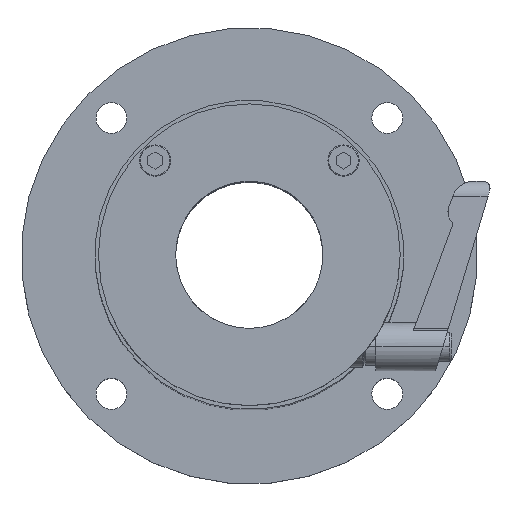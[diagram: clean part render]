
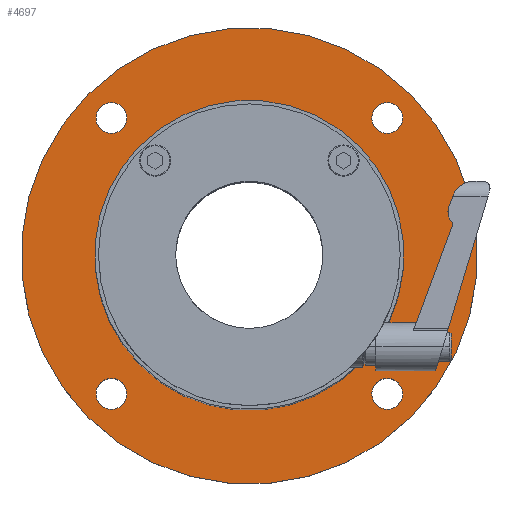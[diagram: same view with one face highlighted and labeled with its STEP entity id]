
A CAD part, top view. The second image highlights one B-rep face of the part: STEP entity #4697.
In plain terms, the highlighted planar face has unit normal (0, 0, 1).
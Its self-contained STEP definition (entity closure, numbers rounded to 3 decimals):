
#4 = FACE_BOUND ( 'NONE', #6618, .T. ) ;
#80 = CARTESIAN_POINT ( 'NONE',  ( -47.154, 38.314, 103. ) ) ;
#185 = VERTEX_POINT ( 'NONE', #6705 ) ;
#223 = EDGE_CURVE ( 'NONE', #3576, #6733, #2280, .T. ) ;
#248 = VERTEX_POINT ( 'NONE', #2738 ) ;
#309 = DIRECTION ( 'NONE',  ( 0.707, 0.707, 0. ) ) ;
#426 = DIRECTION ( 'NONE',  ( 0., 0., -1. ) ) ;
#652 = FACE_BOUND ( 'NONE', #5140, .T. ) ;
#655 = CIRCLE ( 'NONE', #5788, 4.188 ) ;
#744 = CIRCLE ( 'NONE', #1933, 4.188 ) ;
#773 = ORIENTED_EDGE ( 'NONE', *, *, #899, .F. ) ;
#899 = EDGE_CURVE ( 'NONE', #185, #248, #4942, .T. ) ;
#919 = CARTESIAN_POINT ( 'NONE',  ( -9.678, 0.837, 103. ) ) ;
#1060 = CARTESIAN_POINT ( 'NONE',  ( 30.761, -33.678, 103. ) ) ;
#1222 = CARTESIAN_POINT ( 'NONE',  ( 27.799, 38.314, 103. ) ) ;
#1230 = DIRECTION ( 'NONE',  ( 0., 0., -1. ) ) ;
#1266 = CIRCLE ( 'NONE', #1408, 4.188 ) ;
#1302 = VERTEX_POINT ( 'NONE', #6144 ) ;
#1314 = ORIENTED_EDGE ( 'NONE', *, *, #3986, .T. ) ;
#1316 = ORIENTED_EDGE ( 'NONE', *, *, #223, .T. ) ;
#1330 = ORIENTED_EDGE ( 'NONE', *, *, #2422, .T. ) ;
#1368 = CIRCLE ( 'NONE', #8786, 62. ) ;
#1408 = AXIS2_PLACEMENT_3D ( 'NONE', #3337, #1876, #7515 ) ;
#1416 = CIRCLE ( 'NONE', #2602, 4.188 ) ;
#1491 = DIRECTION ( 'NONE',  ( 0., 0., -1. ) ) ;
#1502 = CARTESIAN_POINT ( 'NONE',  ( 20.021, 30.536, 103. ) ) ;
#1821 = AXIS2_PLACEMENT_3D ( 'NONE', #2992, #7086, #2949 ) ;
#1876 = DIRECTION ( 'NONE',  ( 0., 0., -1. ) ) ;
#1933 = AXIS2_PLACEMENT_3D ( 'NONE', #7797, #5082, #8532 ) ;
#1985 = CIRCLE ( 'NONE', #3299, 4.188 ) ;
#2078 = FACE_BOUND ( 'NONE', #7046, .T. ) ;
#2088 = AXIS2_PLACEMENT_3D ( 'NONE', #7463, #1230, #8111 ) ;
#2129 = ORIENTED_EDGE ( 'NONE', *, *, #6040, .T. ) ;
#2280 = CIRCLE ( 'NONE', #5042, 4.188 ) ;
#2413 = EDGE_CURVE ( 'NONE', #2486, #5241, #4317, .T. ) ;
#2422 = EDGE_CURVE ( 'NONE', #2669, #6905, #1985, .T. ) ;
#2478 = AXIS2_PLACEMENT_3D ( 'NONE', #4399, #5862, #5820 ) ;
#2486 = VERTEX_POINT ( 'NONE', #6360 ) ;
#2602 = AXIS2_PLACEMENT_3D ( 'NONE', #7849, #426, #3039 ) ;
#2669 = VERTEX_POINT ( 'NONE', #8498 ) ;
#2693 = ORIENTED_EDGE ( 'NONE', *, *, #7193, .T. ) ;
#2738 = CARTESIAN_POINT ( 'NONE',  ( 34.163, 44.678, 103. ) ) ;
#2869 = AXIS2_PLACEMENT_3D ( 'NONE', #2976, #3750, #3065 ) ;
#2949 = DIRECTION ( 'NONE',  ( -0.707, 0.707, 0. ) ) ;
#2965 = EDGE_CURVE ( 'NONE', #248, #185, #1368, .T. ) ;
#2976 = CARTESIAN_POINT ( 'NONE',  ( -47.154, -36.639, 103. ) ) ;
#2992 = CARTESIAN_POINT ( 'NONE',  ( -46.447, -35.932, 103. ) ) ;
#3039 = DIRECTION ( 'NONE',  ( -0.707, -0.707, 0. ) ) ;
#3065 = DIRECTION ( 'NONE',  ( -0.707, 0.707, 0. ) ) ;
#3266 = ORIENTED_EDGE ( 'NONE', *, *, #6113, .T. ) ;
#3299 = AXIS2_PLACEMENT_3D ( 'NONE', #5856, #8607, #6872 ) ;
#3337 = CARTESIAN_POINT ( 'NONE',  ( -47.154, -36.639, 103. ) ) ;
#3566 = CIRCLE ( 'NONE', #6195, 4.188 ) ;
#3576 = VERTEX_POINT ( 'NONE', #7421 ) ;
#3625 = VERTEX_POINT ( 'NONE', #4825 ) ;
#3718 = DIRECTION ( 'NONE',  ( 0., 0., -1. ) ) ;
#3750 = DIRECTION ( 'NONE',  ( 0., 0., -1. ) ) ;
#3767 = DIRECTION ( 'NONE',  ( 0., 0., -1. ) ) ;
#3986 = EDGE_CURVE ( 'NONE', #6733, #3576, #744, .T. ) ;
#4317 = CIRCLE ( 'NONE', #2869, 4.188 ) ;
#4335 = EDGE_CURVE ( 'NONE', #6905, #2669, #3566, .T. ) ;
#4399 = CARTESIAN_POINT ( 'NONE',  ( -9.678, 0.837, 103. ) ) ;
#4454 = EDGE_LOOP ( 'NONE', ( #1314, #1316 ) ) ;
#4459 = CARTESIAN_POINT ( 'NONE',  ( -50.116, 35.353, 103. ) ) ;
#4539 = EDGE_LOOP ( 'NONE', ( #773, #4675 ) ) ;
#4577 = VERTEX_POINT ( 'NONE', #1502 ) ;
#4675 = ORIENTED_EDGE ( 'NONE', *, *, #2965, .F. ) ;
#4697 = ADVANCED_FACE ( 'NONE', ( #6912, #652, #5563, #8312, #2078, #4 ), #8134, .T. ) ;
#4729 = DIRECTION ( 'NONE',  ( 0., 0., -1. ) ) ;
#4735 = AXIS2_PLACEMENT_3D ( 'NONE', #5128, #3767, #7132 ) ;
#4825 = CARTESIAN_POINT ( 'NONE',  ( 24.838, -39.601, 103. ) ) ;
#4942 = CIRCLE ( 'NONE', #2478, 62. ) ;
#5037 = CARTESIAN_POINT ( 'NONE',  ( 30.761, 35.353, 103. ) ) ;
#5042 = AXIS2_PLACEMENT_3D ( 'NONE', #1222, #4729, #6784 ) ;
#5082 = DIRECTION ( 'NONE',  ( 0., 0., -1. ) ) ;
#5087 = DIRECTION ( 'NONE',  ( 0., 0., -1. ) ) ;
#5128 = CARTESIAN_POINT ( 'NONE',  ( -9.678, 0.837, 103. ) ) ;
#5140 = EDGE_LOOP ( 'NONE', ( #1330, #8547 ) ) ;
#5175 = DIRECTION ( 'NONE',  ( -0.707, -0.707, 0. ) ) ;
#5241 = VERTEX_POINT ( 'NONE', #7062 ) ;
#5462 = ORIENTED_EDGE ( 'NONE', *, *, #7548, .T. ) ;
#5563 = FACE_BOUND ( 'NONE', #4454, .T. ) ;
#5743 = ORIENTED_EDGE ( 'NONE', *, *, #7924, .T. ) ;
#5788 = AXIS2_PLACEMENT_3D ( 'NONE', #6440, #5087, #5175 ) ;
#5820 = DIRECTION ( 'NONE',  ( -0.707, -0.707, 0. ) ) ;
#5856 = CARTESIAN_POINT ( 'NONE',  ( -47.154, 38.314, 103. ) ) ;
#5862 = DIRECTION ( 'NONE',  ( 0., 0., -1. ) ) ;
#6040 = EDGE_CURVE ( 'NONE', #1302, #4577, #7938, .T. ) ;
#6062 = VERTEX_POINT ( 'NONE', #1060 ) ;
#6113 = EDGE_CURVE ( 'NONE', #3625, #6062, #655, .T. ) ;
#6144 = CARTESIAN_POINT ( 'NONE',  ( -39.376, -28.861, 103. ) ) ;
#6195 = AXIS2_PLACEMENT_3D ( 'NONE', #80, #1491, #309 ) ;
#6360 = CARTESIAN_POINT ( 'NONE',  ( -50.116, -33.678, 103. ) ) ;
#6382 = ORIENTED_EDGE ( 'NONE', *, *, #2413, .T. ) ;
#6440 = CARTESIAN_POINT ( 'NONE',  ( 27.799, -36.639, 103. ) ) ;
#6485 = DIRECTION ( 'NONE',  ( -0.707, -0.707, 0. ) ) ;
#6567 = EDGE_LOOP ( 'NONE', ( #3266, #5462 ) ) ;
#6618 = EDGE_LOOP ( 'NONE', ( #2129, #2693 ) ) ;
#6705 = CARTESIAN_POINT ( 'NONE',  ( -53.518, -43.003, 103. ) ) ;
#6733 = VERTEX_POINT ( 'NONE', #5037 ) ;
#6784 = DIRECTION ( 'NONE',  ( 0.707, -0.707, 0. ) ) ;
#6872 = DIRECTION ( 'NONE',  ( 0.707, 0.707, 0. ) ) ;
#6905 = VERTEX_POINT ( 'NONE', #4459 ) ;
#6912 = FACE_OUTER_BOUND ( 'NONE', #4539, .T. ) ;
#7046 = EDGE_LOOP ( 'NONE', ( #6382, #5743 ) ) ;
#7062 = CARTESIAN_POINT ( 'NONE',  ( -44.193, -39.601, 103. ) ) ;
#7086 = DIRECTION ( 'NONE',  ( 0., 0., 1. ) ) ;
#7132 = DIRECTION ( 'NONE',  ( -0.707, -0.707, 0. ) ) ;
#7193 = EDGE_CURVE ( 'NONE', #4577, #1302, #8487, .T. ) ;
#7421 = CARTESIAN_POINT ( 'NONE',  ( 24.838, 41.276, 103. ) ) ;
#7463 = CARTESIAN_POINT ( 'NONE',  ( -9.678, 0.837, 103. ) ) ;
#7515 = DIRECTION ( 'NONE',  ( -0.707, 0.707, 0. ) ) ;
#7548 = EDGE_CURVE ( 'NONE', #6062, #3625, #1416, .T. ) ;
#7797 = CARTESIAN_POINT ( 'NONE',  ( 27.799, 38.314, 103. ) ) ;
#7849 = CARTESIAN_POINT ( 'NONE',  ( 27.799, -36.639, 103. ) ) ;
#7924 = EDGE_CURVE ( 'NONE', #5241, #2486, #1266, .T. ) ;
#7938 = CIRCLE ( 'NONE', #4735, 42. ) ;
#8111 = DIRECTION ( 'NONE',  ( -0.707, -0.707, 0. ) ) ;
#8134 = PLANE ( 'NONE',  #1821 ) ;
#8312 = FACE_BOUND ( 'NONE', #6567, .T. ) ;
#8487 = CIRCLE ( 'NONE', #2088, 42. ) ;
#8498 = CARTESIAN_POINT ( 'NONE',  ( -44.193, 41.276, 103. ) ) ;
#8532 = DIRECTION ( 'NONE',  ( 0.707, -0.707, 0. ) ) ;
#8547 = ORIENTED_EDGE ( 'NONE', *, *, #4335, .T. ) ;
#8607 = DIRECTION ( 'NONE',  ( 0., 0., -1. ) ) ;
#8786 = AXIS2_PLACEMENT_3D ( 'NONE', #919, #3718, #6485 ) ;
